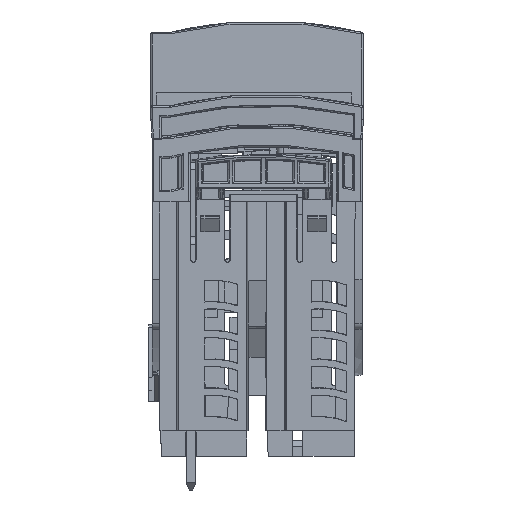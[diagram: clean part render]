
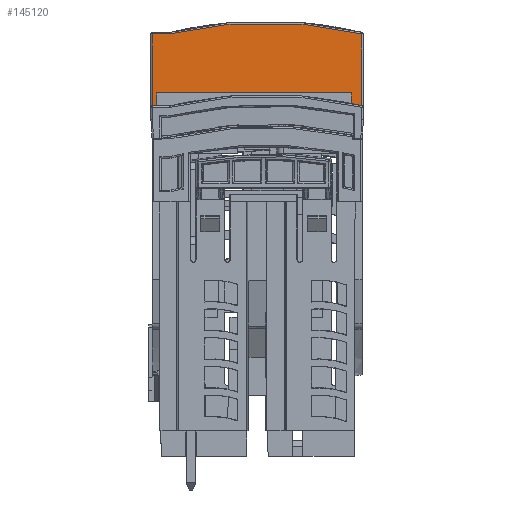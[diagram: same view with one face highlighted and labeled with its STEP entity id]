
A CAD part, front view. The second image highlights one B-rep face of the part: STEP entity #145120.
In plain terms, the highlighted planar face has unit normal (0, -1, 0.026).
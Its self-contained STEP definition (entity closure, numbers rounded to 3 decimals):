
#96925=CARTESIAN_POINT('',(-11.457,1.375,
61.822));
#96926=CARTESIAN_POINT('',(-10.664,1.38,
62.011));
#96927=CARTESIAN_POINT('',(-8.944,1.39,
62.384));
#96928=CARTESIAN_POINT('',(-5.858,1.403,
62.883));
#96929=CARTESIAN_POINT('',(-2.47,1.411,
63.221));
#96930=CARTESIAN_POINT('',(1.088,1.415,63.345));
#96931=CARTESIAN_POINT('',(4.661,1.412,63.232));
#96932=CARTESIAN_POINT('',(8.09,1.403,62.9));
#96933=CARTESIAN_POINT('',(11.245,1.39,62.395));
#96934=CARTESIAN_POINT('',(13.025,1.38,62.009));
#96935=CARTESIAN_POINT('',(13.85,1.375,61.812));
#104558=DIRECTION('',(1.,0.,0.));
#104559=VECTOR('',#104558,2.253);
#104560=CARTESIAN_POINT('',(-13.85,1.125,52.3));
#104561=LINE('',#104560,#104559);
#104653=DIRECTION('',(0.,0.026,1.));
#104654=VECTOR('',#104653,9.503);
#104655=CARTESIAN_POINT('',(13.85,1.126,
52.312));
#104656=LINE('',#104655,#104654);
#104673=CARTESIAN_POINT('',(13.85,1.126,
52.312));
#104674=CARTESIAN_POINT('',(11.767,1.139,
52.808));
#104675=CARTESIAN_POINT('',(7.574,1.158,
53.55));
#104676=CARTESIAN_POINT('',(1.173,1.168,
53.925));
#104677=CARTESIAN_POINT('',(-5.228,1.158,
53.549));
#104678=CARTESIAN_POINT('',(-9.421,1.139,
52.807));
#104679=CARTESIAN_POINT('',(-11.504,1.126,
52.311));
#104681=CARTESIAN_POINT('',(-11.597,1.125,52.3));
#104682=CARTESIAN_POINT('',(-11.566,1.125,52.3));
#104683=CARTESIAN_POINT('',(-11.535,1.126,
52.304));
#104684=CARTESIAN_POINT('',(-11.504,1.126,
52.311));
#104686=DIRECTION('',(-1.,0.,0.));
#104687=VECTOR('',#104686,2.258);
#104688=CARTESIAN_POINT('',(-11.592,1.374,
61.805));
#104689=LINE('',#104688,#104687);
#104715=DIRECTION('',(0.,0.026,1.));
#104716=VECTOR('',#104715,9.508);
#104717=CARTESIAN_POINT('',(-13.85,1.125,52.3));
#104718=LINE('',#104717,#104716);
#118798=CARTESIAN_POINT('',(-11.457,1.375,
61.822));
#118799=CARTESIAN_POINT('',(-11.478,1.375,
61.817));
#118800=CARTESIAN_POINT('',(-11.525,1.374,
61.808));
#118801=CARTESIAN_POINT('',(-11.569,1.374,
61.805));
#118802=CARTESIAN_POINT('',(-11.592,1.374,
61.805));
#128132=CARTESIAN_POINT('',(-11.592,1.374,
61.805));
#128133=CARTESIAN_POINT('',(-13.85,1.374,61.805));
#128134=VERTEX_POINT('',#128132);
#128135=VERTEX_POINT('',#128133);
#128360=VERTEX_POINT('',#118798);
#128364=VERTEX_POINT('',#104681);
#128365=VERTEX_POINT('',#104684);
#128493=CARTESIAN_POINT('',(-13.85,1.125,52.3));
#128494=VERTEX_POINT('',#128493);
#128523=CARTESIAN_POINT('',(13.85,1.126,
52.312));
#128524=CARTESIAN_POINT('',(13.85,1.375,
61.812));
#128525=VERTEX_POINT('',#128523);
#128526=VERTEX_POINT('',#128524);
#145102=CARTESIAN_POINT('',(-13.9,1.379,62.));
#145103=DIRECTION('',(0.,-1.,0.026));
#145104=DIRECTION('',(0.,-0.026,-1.));
#145105=AXIS2_PLACEMENT_3D('',#145102,#145103,#145104);
#145106=PLANE('',#145105);
#145108=ORIENTED_EDGE('',*,*,#145107,.F.);
#145110=ORIENTED_EDGE('',*,*,#145109,.F.);
#145111=ORIENTED_EDGE('',*,*,#136928,.T.);
#145112=ORIENTED_EDGE('',*,*,#145093,.F.);
#145113=ORIENTED_EDGE('',*,*,#144870,.T.);
#145114=ORIENTED_EDGE('',*,*,#144967,.F.);
#145115=ORIENTED_EDGE('',*,*,#144938,.F.);
#145117=ORIENTED_EDGE('',*,*,#145116,.T.);
#145118=EDGE_LOOP('',(#145108,#145110,#145111,#145112,#145113,#145114,#145115,
#145117));
#145119=FACE_OUTER_BOUND('',#145118,.F.);
#145120=ADVANCED_FACE('',(#145119),#145106,.T.);
#96936=B_SPLINE_CURVE_WITH_KNOTS('',3,(#96925,#96926,#96927,#96928,#96929,
#96930,#96931,#96932,#96933,#96934,#96935),.UNSPECIFIED.,.F.,.F.,(4,1,1,1,1,1,1,
1,4),(0.,0.125,0.25,0.375,0.5,0.625,0.75,0.875,1.),
.UNSPECIFIED.);
#104680=B_SPLINE_CURVE_WITH_KNOTS('',3,(#104673,#104674,#104675,#104676,#104677,
#104678,#104679),.UNSPECIFIED.,.F.,.F.,(4,1,1,1,4),(0.,0.25,0.5,0.75,
1.),.UNSPECIFIED.);
#104685=B_SPLINE_CURVE_WITH_KNOTS('',3,(#104681,#104682,#104683,#104684),
.UNSPECIFIED.,.F.,.F.,(4,4),(0.,1.),.UNSPECIFIED.);
#118803=B_SPLINE_CURVE_WITH_KNOTS('',3,(#118798,#118799,#118800,#118801,
#118802),.UNSPECIFIED.,.F.,.F.,(4,1,4),(0.,0.5,1.),.UNSPECIFIED.);
#136928=EDGE_CURVE('',#128360,#128526,#96936,.T.);
#144870=EDGE_CURVE('',#128525,#128365,#104680,.T.);
#144938=EDGE_CURVE('',#128494,#128364,#104561,.T.);
#144967=EDGE_CURVE('',#128364,#128365,#104685,.T.);
#145093=EDGE_CURVE('',#128525,#128526,#104656,.T.);
#145107=EDGE_CURVE('',#128134,#128135,#104689,.T.);
#145109=EDGE_CURVE('',#128360,#128134,#118803,.T.);
#145116=EDGE_CURVE('',#128494,#128135,#104718,.T.);
